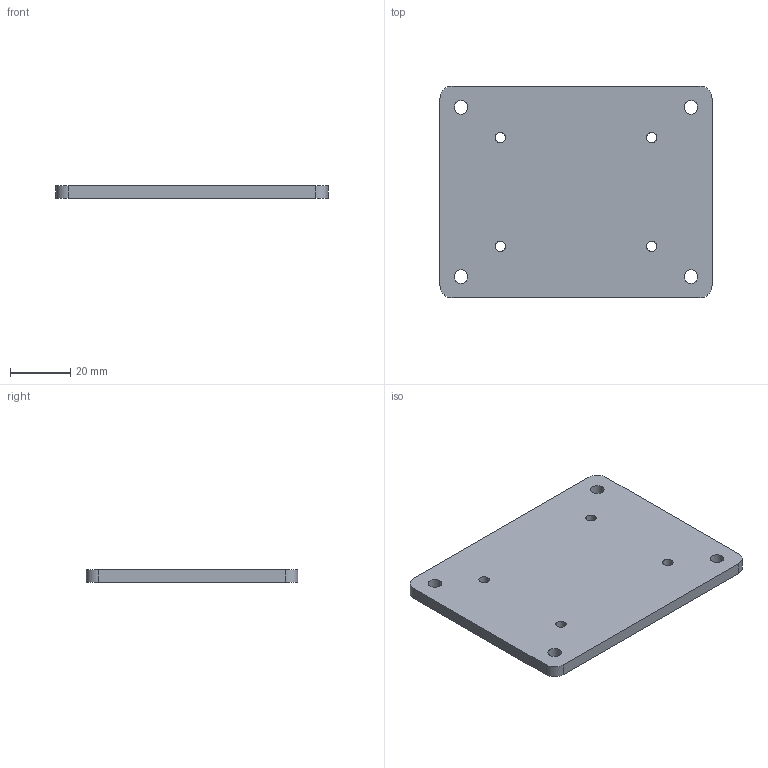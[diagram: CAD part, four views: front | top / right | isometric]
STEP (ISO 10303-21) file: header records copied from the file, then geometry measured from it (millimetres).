
FILE_DESCRIPTION(('Open CASCADE Model'),'2;1');
FILE_NAME('Open CASCADE Shape Model','2026-10-21T22:40:07',('Author'),( 'Open CASCADE'),'Open CASCADE STEP processor 7.8','Open CASCADE 7.8' ,'Unknown');
FILE_SCHEMA(('AUTOMOTIVE_DESIGN { 1 0 10303 214 1 1 1 1 }'));
Length unit declared in the file: millimetre
Products named in the file (1): Open CASCADE STEP translator 7.8 2
Bounding box: 90 x 70 x 4 mm (x, y, z)
Volume: 24745.3 mm3; surface area: 14022.3 mm2
Topology: 1 solids, 1 shells, 18 faces, 48 edges, 32 vertices
Faces by surface type: cylinder 12, plane 6
Full cylindrical faces by diameter (mm): 3.4 x4, 4.5 x4
Entity records: 1302 total; most frequent: CARTESIAN_POINT 315, DIRECTION 186, ORIENTED_EDGE 96, LINE 96, VECTOR 96, PCURVE 96, DEFINITIONAL_REPRESENTATION 96, EDGE_CURVE 48
